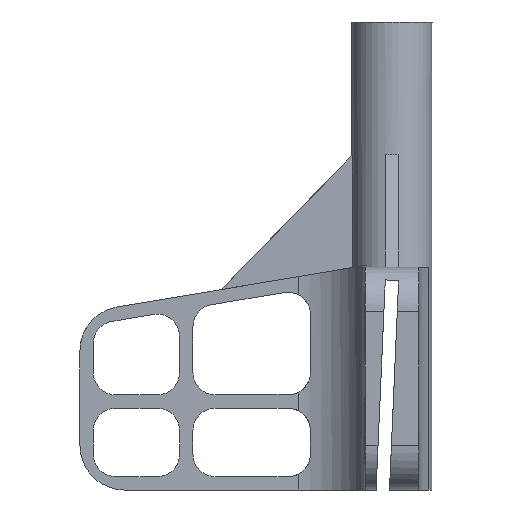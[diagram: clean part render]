
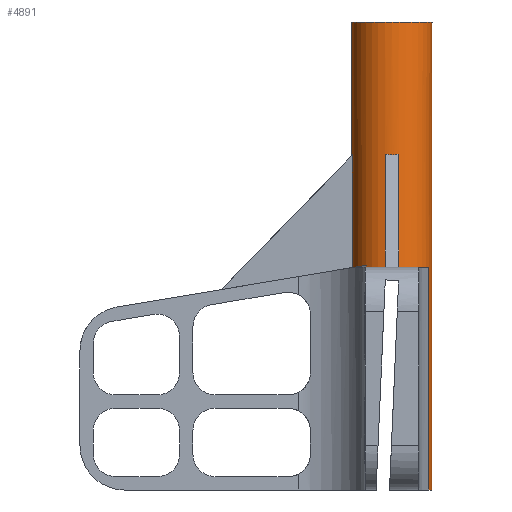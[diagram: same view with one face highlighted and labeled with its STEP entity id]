
A CAD part, left-side view. The second image highlights one B-rep face of the part: STEP entity #4891.
In plain terms, the highlighted cylindrical face has radius 9 mm (diameter 18 mm), a full revolution.
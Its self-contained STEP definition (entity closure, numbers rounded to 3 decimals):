
#19=CYLINDRICAL_SURFACE('',#5180,9.);
#165=CIRCLE('',#5154,9.);
#185=CIRCLE('',#5181,9.);
#186=CIRCLE('',#5183,9.);
#187=CIRCLE('',#5184,9.);
#188=CIRCLE('',#5185,9.);
#189=CIRCLE('',#5187,9.);
#190=CIRCLE('',#5188,9.);
#191=CIRCLE('',#5189,9.);
#325=B_SPLINE_CURVE_WITH_KNOTS('',3,(#7273,#7274,#7275,#7276),
 .UNSPECIFIED.,.F.,.F.,(4,4),(-5.,0.),.UNSPECIFIED.);
#326=B_SPLINE_CURVE_WITH_KNOTS('',3,(#7280,#7281,#7282,#7283),
 .UNSPECIFIED.,.F.,.F.,(4,4),(0.,5.),.UNSPECIFIED.);
#327=B_SPLINE_CURVE_WITH_KNOTS('',3,(#7294,#7295,#7296,#7297),
 .UNSPECIFIED.,.F.,.F.,(4,4),(-0.043,0.),
 .UNSPECIFIED.);
#328=B_SPLINE_CURVE_WITH_KNOTS('',3,(#7300,#7301,#7302,#7303),
 .UNSPECIFIED.,.F.,.F.,(4,4),(0.,0.043),
 .UNSPECIFIED.);
#355=ELLIPSE('',#5146,12.895,9.);
#356=ELLIPSE('',#5149,9.125,9.);
#359=ELLIPSE('',#5152,9.125,9.);
#362=ELLIPSE('',#5182,11.606,9.);
#363=ELLIPSE('',#5186,11.673,9.);
#364=ELLIPSE('',#5190,11.606,9.);
#446=FACE_OUTER_BOUND('',#698,.T.);
#698=EDGE_LOOP('',(#3310,#3311,#3312,#3313,#3314,#3315,#3316,#3317,#3318,
#3319,#3320,#3321,#3322,#3323,#3324,#3325,#3326,#3327,#3328,#3329,#3330,
#3331,#3332,#3333,#3334,#3335));
#972=LINE('',#7097,#1463);
#977=LINE('',#7109,#1468);
#1022=LINE('',#7265,#1513);
#1023=LINE('',#7269,#1514);
#1024=LINE('',#7287,#1515);
#1025=LINE('',#7291,#1516);
#1026=LINE('',#7307,#1517);
#1463=VECTOR('',#5634,10.);
#1468=VECTOR('',#5645,10.);
#1513=VECTOR('',#5758,9.);
#1514=VECTOR('',#5761,10.);
#1515=VECTOR('',#5768,10.);
#1516=VECTOR('',#5771,10.);
#1517=VECTOR('',#5778,10.);
#1954=VERTEX_POINT('',#7094);
#1955=VERTEX_POINT('',#7096);
#1957=VERTEX_POINT('',#7102);
#1959=VERTEX_POINT('',#7108);
#1960=VERTEX_POINT('',#7112);
#1961=VERTEX_POINT('',#7114);
#1970=VERTEX_POINT('',#7135);
#1971=VERTEX_POINT('',#7140);
#2027=VERTEX_POINT('',#7262);
#2028=VERTEX_POINT('',#7264);
#2029=VERTEX_POINT('',#7266);
#2030=VERTEX_POINT('',#7268);
#2031=VERTEX_POINT('',#7270);
#2032=VERTEX_POINT('',#7272);
#2033=VERTEX_POINT('',#7277);
#2034=VERTEX_POINT('',#7279);
#2035=VERTEX_POINT('',#7284);
#2036=VERTEX_POINT('',#7286);
#2037=VERTEX_POINT('',#7288);
#2038=VERTEX_POINT('',#7290);
#2039=VERTEX_POINT('',#7292);
#2040=VERTEX_POINT('',#7299);
#2041=VERTEX_POINT('',#7304);
#2042=VERTEX_POINT('',#7306);
#2460=EDGE_CURVE('',#1955,#1954,#972,.T.);
#2463=EDGE_CURVE('',#1957,#1955,#355,.T.);
#2466=EDGE_CURVE('',#1959,#1957,#977,.T.);
#2469=EDGE_CURVE('',#1961,#1960,#356,.T.);
#2479=EDGE_CURVE('',#1971,#1970,#359,.T.);
#2481=EDGE_CURVE('',#1960,#1959,#165,.T.);
#2539=EDGE_CURVE('',#2027,#2027,#185,.T.);
#2540=EDGE_CURVE('',#2027,#2028,#1022,.T.);
#2541=EDGE_CURVE('',#2028,#2029,#362,.T.);
#2542=EDGE_CURVE('',#2029,#2030,#1023,.T.);
#2543=EDGE_CURVE('',#2030,#2031,#186,.T.);
#2544=EDGE_CURVE('',#2032,#2031,#325,.T.);
#2545=EDGE_CURVE('',#2033,#2032,#187,.T.);
#2546=EDGE_CURVE('',#2034,#2033,#326,.T.);
#2547=EDGE_CURVE('',#2034,#2035,#188,.T.);
#2548=EDGE_CURVE('',#2035,#2036,#1024,.T.);
#2549=EDGE_CURVE('',#2036,#2037,#363,.T.);
#2550=EDGE_CURVE('',#2037,#2038,#1025,.T.);
#2551=EDGE_CURVE('',#2038,#2039,#189,.T.);
#2552=EDGE_CURVE('',#1961,#2039,#327,.T.);
#2553=EDGE_CURVE('',#1954,#1971,#190,.T.);
#2554=EDGE_CURVE('',#2040,#1970,#328,.T.);
#2555=EDGE_CURVE('',#2040,#2041,#191,.T.);
#2556=EDGE_CURVE('',#2041,#2042,#1026,.T.);
#2557=EDGE_CURVE('',#2042,#2028,#364,.T.);
#3310=ORIENTED_EDGE('',*,*,#2539,.F.);
#3311=ORIENTED_EDGE('',*,*,#2540,.T.);
#3312=ORIENTED_EDGE('',*,*,#2541,.T.);
#3313=ORIENTED_EDGE('',*,*,#2542,.T.);
#3314=ORIENTED_EDGE('',*,*,#2543,.T.);
#3315=ORIENTED_EDGE('',*,*,#2544,.F.);
#3316=ORIENTED_EDGE('',*,*,#2545,.F.);
#3317=ORIENTED_EDGE('',*,*,#2546,.F.);
#3318=ORIENTED_EDGE('',*,*,#2547,.T.);
#3319=ORIENTED_EDGE('',*,*,#2548,.T.);
#3320=ORIENTED_EDGE('',*,*,#2549,.T.);
#3321=ORIENTED_EDGE('',*,*,#2550,.T.);
#3322=ORIENTED_EDGE('',*,*,#2551,.T.);
#3323=ORIENTED_EDGE('',*,*,#2552,.F.);
#3324=ORIENTED_EDGE('',*,*,#2469,.T.);
#3325=ORIENTED_EDGE('',*,*,#2481,.T.);
#3326=ORIENTED_EDGE('',*,*,#2466,.T.);
#3327=ORIENTED_EDGE('',*,*,#2463,.T.);
#3328=ORIENTED_EDGE('',*,*,#2460,.T.);
#3329=ORIENTED_EDGE('',*,*,#2553,.T.);
#3330=ORIENTED_EDGE('',*,*,#2479,.T.);
#3331=ORIENTED_EDGE('',*,*,#2554,.F.);
#3332=ORIENTED_EDGE('',*,*,#2555,.T.);
#3333=ORIENTED_EDGE('',*,*,#2556,.T.);
#3334=ORIENTED_EDGE('',*,*,#2557,.T.);
#3335=ORIENTED_EDGE('',*,*,#2540,.F.);
#4891=ADVANCED_FACE('',(#446),#19,.T.);
#5146=AXIS2_PLACEMENT_3D('',#7103,#5639,#5640);
#5149=AXIS2_PLACEMENT_3D('',#7115,#5650,#5651);
#5152=AXIS2_PLACEMENT_3D('',#7141,#5661,#5662);
#5154=AXIS2_PLACEMENT_3D('',#7144,#5666,#5667);
#5180=AXIS2_PLACEMENT_3D('',#7261,#5754,#5755);
#5181=AXIS2_PLACEMENT_3D('',#7263,#5756,#5757);
#5182=AXIS2_PLACEMENT_3D('',#7267,#5759,#5760);
#5183=AXIS2_PLACEMENT_3D('',#7271,#5762,#5763);
#5184=AXIS2_PLACEMENT_3D('',#7278,#5764,#5765);
#5185=AXIS2_PLACEMENT_3D('',#7285,#5766,#5767);
#5186=AXIS2_PLACEMENT_3D('',#7289,#5769,#5770);
#5187=AXIS2_PLACEMENT_3D('',#7293,#5772,#5773);
#5188=AXIS2_PLACEMENT_3D('',#7298,#5774,#5775);
#5189=AXIS2_PLACEMENT_3D('',#7305,#5776,#5777);
#5190=AXIS2_PLACEMENT_3D('',#7308,#5779,#5780);
#5634=DIRECTION('',(0.,0.,-1.));
#5639=DIRECTION('center_axis',(0.,0.716,0.698));
#5640=DIRECTION('ref_axis',(0.,0.698,-0.716));
#5645=DIRECTION('',(0.,0.,1.));
#5650=DIRECTION('center_axis',(0.,0.165,0.986));
#5651=DIRECTION('ref_axis',(0.,0.986,-0.165));
#5661=DIRECTION('center_axis',(0.,0.165,0.986));
#5662=DIRECTION('ref_axis',(0.,0.986,-0.165));
#5666=DIRECTION('center_axis',(0.,0.,1.));
#5667=DIRECTION('ref_axis',(1.,0.,0.));
#5754=DIRECTION('center_axis',(0.,0.,1.));
#5755=DIRECTION('ref_axis',(1.,0.,0.));
#5756=DIRECTION('center_axis',(0.,0.,1.));
#5757=DIRECTION('ref_axis',(1.,0.,0.));
#5758=DIRECTION('',(0.,0.,-1.));
#5759=DIRECTION('center_axis',(-0.631,0.,
0.775));
#5760=DIRECTION('ref_axis',(0.775,0.,0.631));
#5761=DIRECTION('',(0.,0.,-1.));
#5762=DIRECTION('center_axis',(0.,0.,1.));
#5763=DIRECTION('ref_axis',(1.,0.,0.));
#5764=DIRECTION('center_axis',(0.,0.,-1.));
#5765=DIRECTION('ref_axis',(-1.,0.,0.));
#5766=DIRECTION('center_axis',(0.,0.,1.));
#5767=DIRECTION('ref_axis',(1.,0.,0.));
#5768=DIRECTION('',(0.,0.,1.));
#5769=DIRECTION('center_axis',(0.637,0.,
0.771));
#5770=DIRECTION('ref_axis',(0.771,0.,-0.637));
#5771=DIRECTION('',(0.,0.,-1.));
#5772=DIRECTION('center_axis',(0.,0.,1.));
#5773=DIRECTION('ref_axis',(1.,0.,0.));
#5774=DIRECTION('center_axis',(0.,0.,1.));
#5775=DIRECTION('ref_axis',(1.,0.,0.));
#5776=DIRECTION('center_axis',(0.,0.,1.));
#5777=DIRECTION('ref_axis',(1.,0.,0.));
#5778=DIRECTION('',(0.,0.,1.));
#5779=DIRECTION('center_axis',(-0.631,0.,
0.775));
#5780=DIRECTION('ref_axis',(0.775,0.,0.631));
#7094=CARTESIAN_POINT('',(-1.5,8.874,0.));
#7096=CARTESIAN_POINT('',(-1.5,8.874,25.166));
#7097=CARTESIAN_POINT('',(-1.5,8.874,0.));
#7102=CARTESIAN_POINT('',(1.5,8.874,25.166));
#7103=CARTESIAN_POINT('Origin',(0.,0.,34.272));
#7108=CARTESIAN_POINT('',(1.5,8.874,0.));
#7109=CARTESIAN_POINT('',(1.5,8.874,0.));
#7112=CARTESIAN_POINT('',(3.5,8.292,0.));
#7114=CARTESIAN_POINT('',(6.938,5.733,0.428));
#7115=CARTESIAN_POINT('Origin',(0.,0.,1.388));
#7135=CARTESIAN_POINT('',(-6.938,5.733,0.428));
#7140=CARTESIAN_POINT('',(-3.5,8.292,0.));
#7141=CARTESIAN_POINT('Origin',(0.,0.,1.388));
#7144=CARTESIAN_POINT('Origin',(0.,0.,0.));
#7261=CARTESIAN_POINT('Origin',(0.,0.,0.));
#7262=CARTESIAN_POINT('',(-9.,0.,55.));
#7263=CARTESIAN_POINT('Origin',(0.,0.,55.));
#7264=CARTESIAN_POINT('',(-9.,0.,25.242));
#7265=CARTESIAN_POINT('',(-9.,0.,0.));
#7266=CARTESIAN_POINT('',(-8.874,-1.5,25.345));
#7267=CARTESIAN_POINT('Origin',(0.,0.,32.571));
#7268=CARTESIAN_POINT('',(-8.874,-1.5,0.));
#7269=CARTESIAN_POINT('',(-8.874,-1.5,0.));
#7270=CARTESIAN_POINT('',(-3.462,-8.308,0.));
#7271=CARTESIAN_POINT('Origin',(0.,0.,0.));
#7272=CARTESIAN_POINT('',(-3.462,-8.308,-50.));
#7273=CARTESIAN_POINT('Ctrl Pts',(-3.462,-8.308,-50.));
#7274=CARTESIAN_POINT('Ctrl Pts',(-3.462,-8.308,-33.333));
#7275=CARTESIAN_POINT('Ctrl Pts',(-3.462,-8.308,-16.667));
#7276=CARTESIAN_POINT('Ctrl Pts',(-3.462,-8.308,0.));
#7277=CARTESIAN_POINT('',(3.462,-8.308,-50.));
#7278=CARTESIAN_POINT('Origin',(0.,0.,-50.));
#7279=CARTESIAN_POINT('',(3.462,-8.308,0.));
#7280=CARTESIAN_POINT('Ctrl Pts',(3.462,-8.308,0.));
#7281=CARTESIAN_POINT('Ctrl Pts',(3.462,-8.308,-16.667));
#7282=CARTESIAN_POINT('Ctrl Pts',(3.462,-8.308,-33.333));
#7283=CARTESIAN_POINT('Ctrl Pts',(3.462,-8.308,-50.));
#7284=CARTESIAN_POINT('',(8.874,-1.5,0.));
#7285=CARTESIAN_POINT('Origin',(0.,0.,0.));
#7286=CARTESIAN_POINT('',(8.874,-1.5,25.711));
#7287=CARTESIAN_POINT('',(8.874,-1.5,0.));
#7288=CARTESIAN_POINT('',(8.874,1.5,25.711));
#7289=CARTESIAN_POINT('Origin',(0.,0.,33.042));
#7290=CARTESIAN_POINT('',(8.874,1.5,0.));
#7291=CARTESIAN_POINT('',(8.874,1.5,0.));
#7292=CARTESIAN_POINT('',(6.938,5.733,0.));
#7293=CARTESIAN_POINT('Origin',(0.,0.,0.));
#7294=CARTESIAN_POINT('Ctrl Pts',(6.938,5.733,0.428));
#7295=CARTESIAN_POINT('Ctrl Pts',(6.938,5.733,0.285));
#7296=CARTESIAN_POINT('Ctrl Pts',(6.938,5.733,0.143));
#7297=CARTESIAN_POINT('Ctrl Pts',(6.938,5.733,0.));
#7298=CARTESIAN_POINT('Origin',(0.,0.,0.));
#7299=CARTESIAN_POINT('',(-6.938,5.733,0.));
#7300=CARTESIAN_POINT('Ctrl Pts',(-6.938,5.733,0.));
#7301=CARTESIAN_POINT('Ctrl Pts',(-6.938,5.733,0.143));
#7302=CARTESIAN_POINT('Ctrl Pts',(-6.938,5.733,0.285));
#7303=CARTESIAN_POINT('Ctrl Pts',(-6.938,5.733,0.428));
#7304=CARTESIAN_POINT('',(-8.874,1.5,0.));
#7305=CARTESIAN_POINT('Origin',(0.,0.,0.));
#7306=CARTESIAN_POINT('',(-8.874,1.5,25.345));
#7307=CARTESIAN_POINT('',(-8.874,1.5,0.));
#7308=CARTESIAN_POINT('Origin',(0.,0.,32.571));
